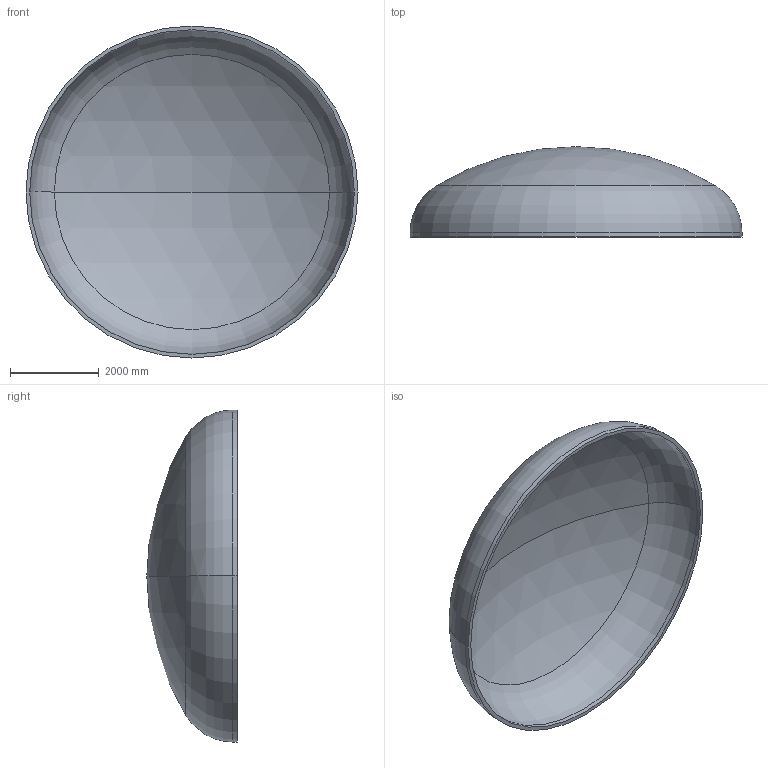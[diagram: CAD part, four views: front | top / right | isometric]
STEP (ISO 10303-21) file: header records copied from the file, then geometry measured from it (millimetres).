
FILE_DESCRIPTION (( 'STEP AP203' ), '1' );
FILE_NAME ('DIN 28013 Korbbogenform_-_Boden DIN 28013 - 7500 x 100 - I - s=84.step', '2016-07-04T10:56:13', ( '' ), ( '' ), 'SwSTEP 2.0', 'SolidWorks 2013', '' );
FILE_SCHEMA (( 'CONFIG_CONTROL_DESIGN' ));
Length unit declared in the file: millimetre
Products named in the file (1): DIN 28013 Korbbogenform_-_Boden DIN 28013 - 7500 x 100 - I - s=84
Bounding box: 7500 x 2040.46 x 7500 mm (x, y, z)
Volume: 5259832734.5 mm3; surface area: 127205878.6 mm2
Topology: 1 solids, 1 shells, 13 faces, 24 edges, 14 vertices
Faces by surface type: torus 4, cylinder 4, sphere 4, plane 1
Entity records: 407 total; most frequent: DIRECTION 72, CARTESIAN_POINT 52, ORIENTED_EDGE 48, AXIS2_PLACEMENT_3D 34, EDGE_CURVE 24, CIRCLE 20, VERTEX_POINT 14, EDGE_LOOP 14
